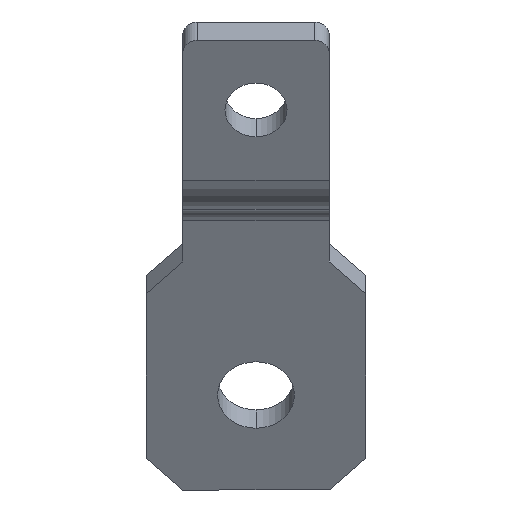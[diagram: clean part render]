
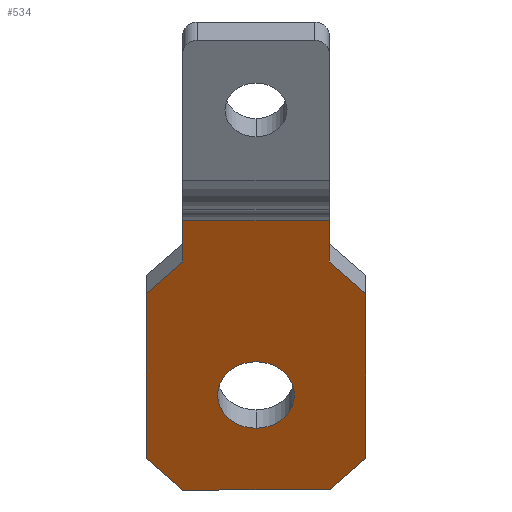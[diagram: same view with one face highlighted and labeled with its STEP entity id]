
A CAD part, left-side view. The second image highlights one B-rep face of the part: STEP entity #534.
In plain terms, the highlighted planar face has unit normal (-0.866, 0, -0.5).
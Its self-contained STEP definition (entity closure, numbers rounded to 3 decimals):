
#2 = ORIENTED_EDGE ( 'NONE', *, *, #322, .F. ) ;
#6 = VERTEX_POINT ( 'NONE', #610 ) ;
#12 = CARTESIAN_POINT ( 'NONE',  ( -18.527, 5., -28.114 ) ) ;
#30 = VECTOR ( 'NONE', #735, 1000. ) ;
#31 = DIRECTION ( 'NONE',  ( 0.5, 0., -0.866 ) ) ;
#40 = CIRCLE ( 'NONE', #993, 5.25 ) ;
#80 = DIRECTION ( 'NONE',  ( -0.866, 0., -0.5 ) ) ;
#81 = ORIENTED_EDGE ( 'NONE', *, *, #206, .F. ) ;
#99 = CARTESIAN_POINT ( 'NONE',  ( -30.623, 25., -7.163 ) ) ;
#125 = AXIS2_PLACEMENT_3D ( 'NONE', #786, #461, #140 ) ;
#140 = DIRECTION ( 'NONE',  ( 0.5, 0., -0.866 ) ) ;
#143 = FACE_OUTER_BOUND ( 'NONE', #680, .T. ) ;
#172 = DIRECTION ( 'NONE',  ( -0.5, 0., 0.866 ) ) ;
#179 = EDGE_CURVE ( 'NONE', #678, #212, #911, .T. ) ;
#181 = VERTEX_POINT ( 'NONE', #312 ) ;
#199 = ORIENTED_EDGE ( 'NONE', *, *, #972, .F. ) ;
#206 = EDGE_CURVE ( 'NONE', #669, #569, #804, .T. ) ;
#212 = VERTEX_POINT ( 'NONE', #645 ) ;
#230 = DIRECTION ( 'NONE',  ( -0.5, 0., 0.866 ) ) ;
#231 = EDGE_CURVE ( 'NONE', #569, #768, #244, .T. ) ;
#244 = LINE ( 'NONE', #488, #30 ) ;
#250 = ORIENTED_EDGE ( 'NONE', *, *, #798, .F. ) ;
#252 = CARTESIAN_POINT ( 'NONE',  ( -28.123, 0., -11.493 ) ) ;
#271 = ORIENTED_EDGE ( 'NONE', *, *, #231, .F. ) ;
#282 = ORIENTED_EDGE ( 'NONE', *, *, #606, .F. ) ;
#301 = EDGE_CURVE ( 'NONE', #839, #668, #40, .T. ) ;
#310 = FACE_BOUND ( 'NONE', #366, .T. ) ;
#312 = CARTESIAN_POINT ( 'NONE',  ( -33.892, 5., -1.5 ) ) ;
#316 = CARTESIAN_POINT ( 'NONE',  ( -15.123, 30., -34.009 ) ) ;
#322 = EDGE_CURVE ( 'NONE', #181, #669, #428, .T. ) ;
#366 = EDGE_LOOP ( 'NONE', ( #1025, #724 ) ) ;
#367 = LINE ( 'NONE', #1044, #964 ) ;
#382 = CARTESIAN_POINT ( 'NONE',  ( -12.623, 5., -38.339 ) ) ;
#403 = VERTEX_POINT ( 'NONE', #411 ) ;
#411 = CARTESIAN_POINT ( 'NONE',  ( -12.623, 25., -38.339 ) ) ;
#412 = CARTESIAN_POINT ( 'NONE',  ( -33.892, 0., -1.5 ) ) ;
#428 = LINE ( 'NONE', #12, #853 ) ;
#436 = LINE ( 'NONE', #412, #539 ) ;
#440 = CARTESIAN_POINT ( 'NONE',  ( -15.123, 0., -34.009 ) ) ;
#461 = DIRECTION ( 'NONE',  ( 0.866, 0., 0.5 ) ) ;
#468 = DIRECTION ( 'NONE',  ( 0.354, -0.707, -0.612 ) ) ;
#488 = CARTESIAN_POINT ( 'NONE',  ( -12.623, 0., -38.339 ) ) ;
#494 = ORIENTED_EDGE ( 'NONE', *, *, #812, .F. ) ;
#499 = DIRECTION ( 'NONE',  ( 0., -1., 0. ) ) ;
#516 = LINE ( 'NONE', #767, #550 ) ;
#534 = ADVANCED_FACE ( 'NONE', ( #143, #310 ), #900, .T. ) ;
#539 = VECTOR ( 'NONE', #499, 1000. ) ;
#550 = VECTOR ( 'NONE', #687, 1000. ) ;
#557 = DIRECTION ( 'NONE',  ( -0.5, 0., 0.866 ) ) ;
#569 = VERTEX_POINT ( 'NONE', #252 ) ;
#572 = EDGE_CURVE ( 'NONE', #729, #6, #367, .T. ) ;
#585 = DIRECTION ( 'NONE',  ( 0.354, 0.707, -0.612 ) ) ;
#606 = EDGE_CURVE ( 'NONE', #403, #729, #951, .T. ) ;
#608 = CARTESIAN_POINT ( 'NONE',  ( -30.623, 25., -7.163 ) ) ;
#610 = CARTESIAN_POINT ( 'NONE',  ( -28.123, 30., -11.493 ) ) ;
#624 = VECTOR ( 'NONE', #1015, 1000. ) ;
#628 = DIRECTION ( 'NONE',  ( 0.5, 0., -0.866 ) ) ;
#645 = CARTESIAN_POINT ( 'NONE',  ( -33.892, 25., -1.5 ) ) ;
#653 = CARTESIAN_POINT ( 'NONE',  ( -22.748, 15., -20.802 ) ) ;
#660 = EDGE_CURVE ( 'NONE', #212, #181, #436, .T. ) ;
#663 = CARTESIAN_POINT ( 'NONE',  ( -12.623, 5., -38.339 ) ) ;
#668 = VERTEX_POINT ( 'NONE', #653 ) ;
#669 = VERTEX_POINT ( 'NONE', #811 ) ;
#678 = VERTEX_POINT ( 'NONE', #99 ) ;
#680 = EDGE_LOOP ( 'NONE', ( #920, #763, #250, #922, #282, #494, #199, #271, #81, #2 ) ) ;
#687 = DIRECTION ( 'NONE',  ( 0., 1., 0. ) ) ;
#698 = AXIS2_PLACEMENT_3D ( 'NONE', #883, #80, #172 ) ;
#724 = ORIENTED_EDGE ( 'NONE', *, *, #901, .T. ) ;
#729 = VERTEX_POINT ( 'NONE', #772 ) ;
#735 = DIRECTION ( 'NONE',  ( 0.5, 0., -0.866 ) ) ;
#736 = LINE ( 'NONE', #608, #624 ) ;
#763 = ORIENTED_EDGE ( 'NONE', *, *, #179, .F. ) ;
#767 = CARTESIAN_POINT ( 'NONE',  ( -12.623, 0., -38.339 ) ) ;
#768 = VERTEX_POINT ( 'NONE', #440 ) ;
#769 = CARTESIAN_POINT ( 'NONE',  ( -20.123, 15., -25.349 ) ) ;
#772 = CARTESIAN_POINT ( 'NONE',  ( -15.123, 30., -34.009 ) ) ;
#779 = CARTESIAN_POINT ( 'NONE',  ( -17.498, 15., -29.896 ) ) ;
#786 = CARTESIAN_POINT ( 'NONE',  ( -20.123, 15., -25.349 ) ) ;
#798 = EDGE_CURVE ( 'NONE', #6, #678, #736, .T. ) ;
#800 = LINE ( 'NONE', #663, #999 ) ;
#804 = LINE ( 'NONE', #880, #830 ) ;
#811 = CARTESIAN_POINT ( 'NONE',  ( -30.623, 5., -7.163 ) ) ;
#812 = EDGE_CURVE ( 'NONE', #918, #403, #516, .T. ) ;
#826 = CIRCLE ( 'NONE', #125, 5.25 ) ;
#830 = VECTOR ( 'NONE', #468, 1000. ) ;
#839 = VERTEX_POINT ( 'NONE', #779 ) ;
#844 = DIRECTION ( 'NONE',  ( 0.866, 0., 0.5 ) ) ;
#853 = VECTOR ( 'NONE', #31, 1000. ) ;
#880 = CARTESIAN_POINT ( 'NONE',  ( -28.123, 0., -11.493 ) ) ;
#883 = CARTESIAN_POINT ( 'NONE',  ( -18.527, 0., -28.114 ) ) ;
#900 = PLANE ( 'NONE',  #698 ) ;
#901 = EDGE_CURVE ( 'NONE', #668, #839, #826, .T. ) ;
#902 = DIRECTION ( 'NONE',  ( -0.354, 0.707, 0.612 ) ) ;
#911 = LINE ( 'NONE', #966, #967 ) ;
#916 = VECTOR ( 'NONE', #902, 1000. ) ;
#918 = VERTEX_POINT ( 'NONE', #382 ) ;
#920 = ORIENTED_EDGE ( 'NONE', *, *, #660, .F. ) ;
#922 = ORIENTED_EDGE ( 'NONE', *, *, #572, .F. ) ;
#951 = LINE ( 'NONE', #316, #916 ) ;
#964 = VECTOR ( 'NONE', #557, 1000. ) ;
#966 = CARTESIAN_POINT ( 'NONE',  ( -18.527, 25., -28.114 ) ) ;
#967 = VECTOR ( 'NONE', #230, 1000. ) ;
#972 = EDGE_CURVE ( 'NONE', #768, #918, #800, .T. ) ;
#993 = AXIS2_PLACEMENT_3D ( 'NONE', #769, #844, #628 ) ;
#999 = VECTOR ( 'NONE', #585, 1000. ) ;
#1015 = DIRECTION ( 'NONE',  ( -0.354, -0.707, 0.612 ) ) ;
#1025 = ORIENTED_EDGE ( 'NONE', *, *, #301, .T. ) ;
#1044 = CARTESIAN_POINT ( 'NONE',  ( -12.623, 30., -38.339 ) ) ;
